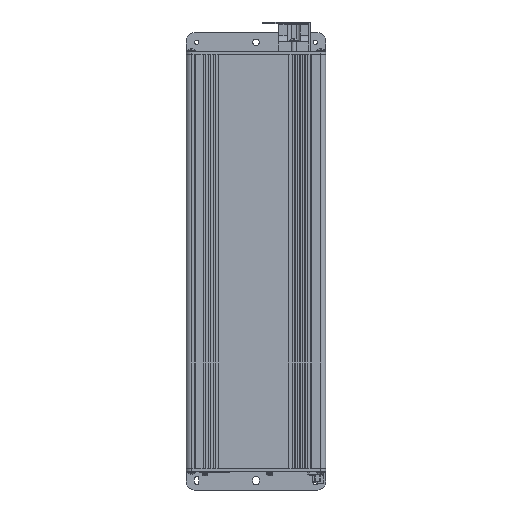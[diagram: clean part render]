
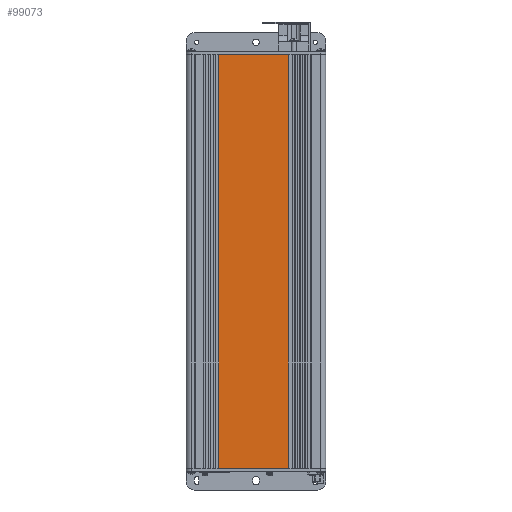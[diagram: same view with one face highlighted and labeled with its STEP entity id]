
A CAD part, left-side view. The second image highlights one B-rep face of the part: STEP entity #99073.
In plain terms, the highlighted planar face has unit normal (-1, 0, 0).
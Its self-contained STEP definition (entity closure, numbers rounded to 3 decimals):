
#6498=PLANE('',#105153);
#12132=LINE('',#155034,#20968);
#13806=LINE('',#168476,#22642);
#13807=LINE('',#168479,#22643);
#13808=LINE('',#168480,#22644);
#20968=VECTOR('',#116999,10.);
#22642=VECTOR('',#122747,10.);
#22643=VECTOR('',#122750,10.);
#22644=VECTOR('',#122751,10.);
#29632=FACE_OUTER_BOUND('',#35252,.T.);
#35252=EDGE_LOOP('',(#81885,#81886,#81887,#81888));
#44564=VERTEX_POINT('',#155031);
#44565=VERTEX_POINT('',#155033);
#46156=VERTEX_POINT('',#168474);
#46157=VERTEX_POINT('',#168478);
#55700=EDGE_CURVE('',#44564,#44565,#12132,.T.);
#58539=EDGE_CURVE('',#46156,#44565,#13806,.T.);
#58540=EDGE_CURVE('',#46156,#46157,#13807,.T.);
#58541=EDGE_CURVE('',#46157,#44564,#13808,.T.);
#81885=ORIENTED_EDGE('',*,*,#58540,.F.);
#81886=ORIENTED_EDGE('',*,*,#58539,.T.);
#81887=ORIENTED_EDGE('',*,*,#55700,.F.);
#81888=ORIENTED_EDGE('',*,*,#58541,.F.);
#99073=ADVANCED_FACE('',(#29632),#6498,.T.);
#105153=AXIS2_PLACEMENT_3D('',#168477,#122748,#122749);
#116999=DIRECTION('',(0.,1.,0.));
#122747=DIRECTION('',(0.,0.,-1.));
#122748=DIRECTION('center_axis',(-1.,0.,0.));
#122749=DIRECTION('ref_axis',(0.,1.,0.));
#122750=DIRECTION('',(0.,-1.,0.));
#122751=DIRECTION('',(0.,0.,-1.));
#155031=CARTESIAN_POINT('',(56.236,62.335,55.828));
#155033=CARTESIAN_POINT('',(56.236,132.335,55.828));
#155034=CARTESIAN_POINT('',(56.236,62.335,55.828));
#168474=CARTESIAN_POINT('',(56.236,132.335,470.828));
#168476=CARTESIAN_POINT('',(56.236,132.335,470.828));
#168477=CARTESIAN_POINT('Origin',(56.236,62.335,470.828));
#168478=CARTESIAN_POINT('',(56.236,62.335,470.828));
#168479=CARTESIAN_POINT('',(56.236,78.535,470.828));
#168480=CARTESIAN_POINT('',(56.236,62.335,470.828));
